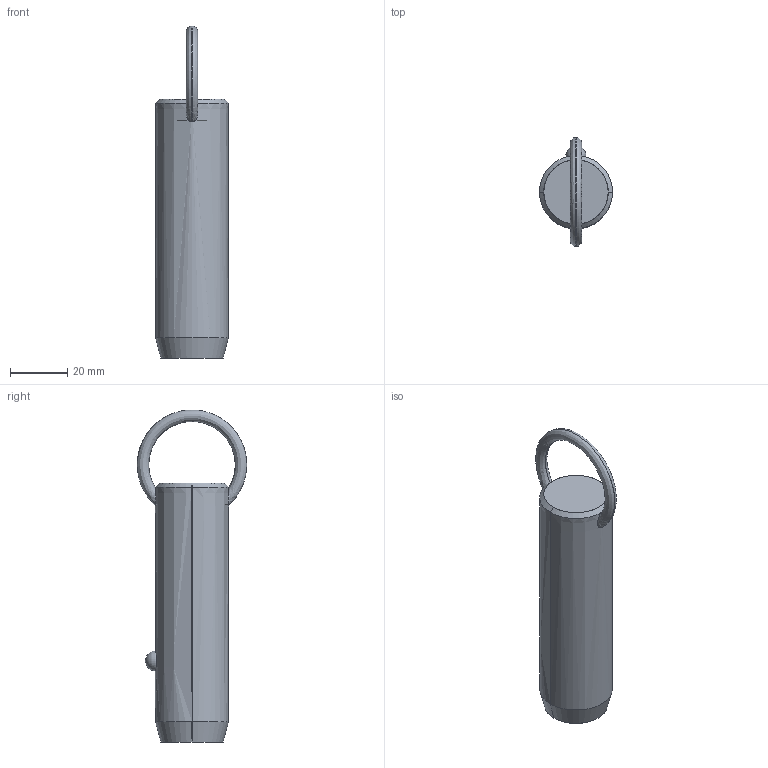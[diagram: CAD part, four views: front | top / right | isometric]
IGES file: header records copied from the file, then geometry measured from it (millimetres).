
Start section: SolidWorks IGES file using analytic representation for surfaces
Global section: file name: C:\Users\liam_\OneDrive\Documents\WORK\Work for WixRoyd\Job Files\J-00019 - Matt Davis CAD Checking\04. CAD Drawings\automotion20190605\P1250.2_v2\P1250.2_v2_20190729_IGES\P1250.100-180.igs; native system: SolidWorks 2017; preprocessor: SolidWorks 2017; author: liam_; date: 190730.173423; units: millimetre
Bounding box: 25.4 x 38.1 x 115.5 mm (x, y, z)
Surface area: 8963 mm2 (no closed solid volume)
Topology: 0 solids, 0 shells, 12 faces, 298 edges, 296 vertices
Faces by surface type: revolution 8, bspline 4
